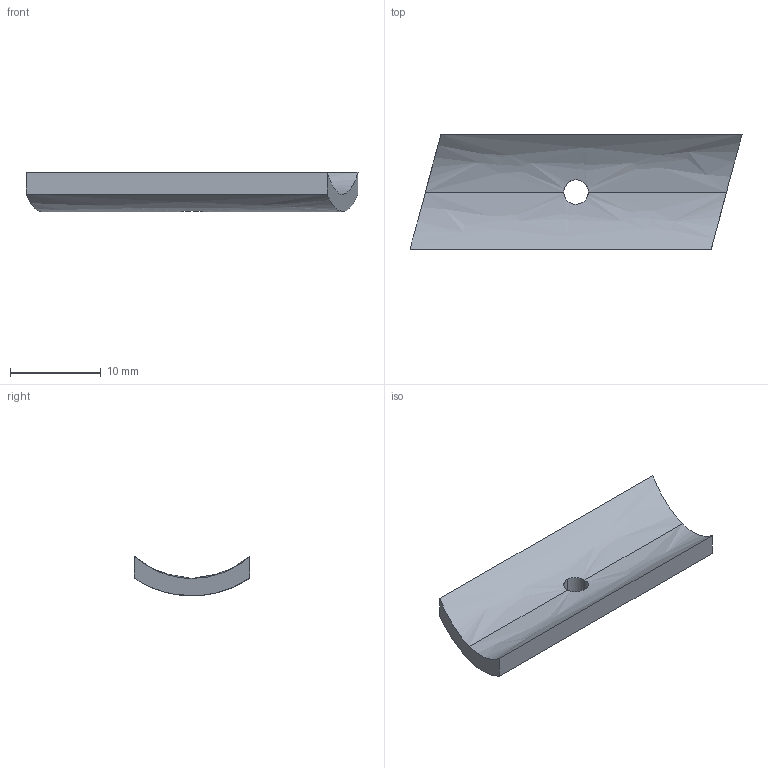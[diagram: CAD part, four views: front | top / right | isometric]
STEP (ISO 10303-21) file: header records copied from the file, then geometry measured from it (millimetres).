
FILE_DESCRIPTION(('TurboCAD Mac Pro'),'Build 980');
FILE_NAME('P3016-0632.stp',' ',(''),(''),'ACIS Interop','IMSI','TurboCAD Mac Pro BY IMSI, INCORPORATED');
FILE_SCHEMA(('automotive_design'));
Length unit declared in the file: inch
Products named in the file (1): 1
Bounding box: 36.51 x 12.7 x 4.33 mm (x, y, z)
Volume: 850.8 mm3; surface area: 1124.1 mm2
Topology: 1 solids, 1 shells, 12 faces, 36 edges, 24 vertices
Faces by surface type: bspline 8, plane 4
Entity records: 658 total; most frequent: CARTESIAN_POINT 275, ORIENTED_EDGE 72, EDGE_CURVE 36, DIRECTION 24, VERTEX_POINT 24, B_SPLINE_CURVE_WITH_KNOTS 22, LINE 14, VECTOR 14
